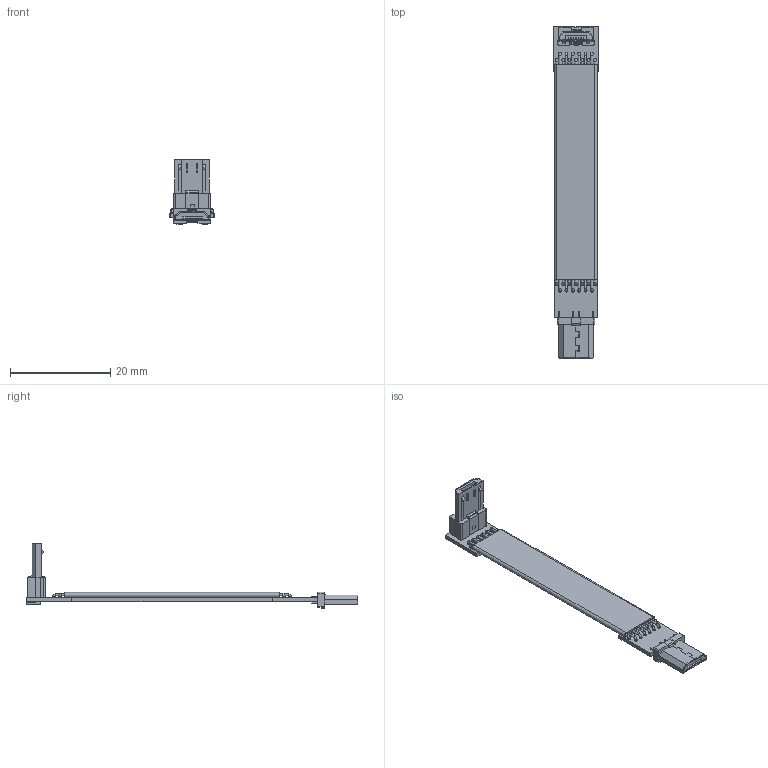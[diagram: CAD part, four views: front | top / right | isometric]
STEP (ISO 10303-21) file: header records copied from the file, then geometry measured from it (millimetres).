
FILE_DESCRIPTION(('Open CASCADE Model'),'2;1');
FILE_NAME('Open CASCADE Shape Model','2022-04-27T02:13:25',('Author'),( 'Open CASCADE'),'Open CASCADE STEP processor 6.8','Open CASCADE 6.8' ,'Unknown');
FILE_SCHEMA(('AUTOMOTIVE_DESIGN { 1 0 10303 214 1 1 1 1 }'));
Length unit declared in the file: millimetre
Products named in the file (35): PCB; Board; Open CASCADE STEP translator 6.8 3.1.1; Designator22; USB_micro; Designator22_1; micro_usb1; Free-Models; cable13-US2A
Assembly tree (34 placements, depth 3):
  PCB
    Board
      Open CASCADE STEP translator 6.8 3.1.1
    Designator22
      USB_micro
    Designator22_1
      micro_usb1
    Free-Models
      cable13-US2A
      cable13-US2A
      cable13-US2A
      cable13-US2A
      cable13-US2A
      cable13-US2A
      cable13-US2A
      cable13-US2A
      cable13-US2A
      cable13-US2A
      cable13-US2A
      cable13-US2A
      cable13-US2A
      cable13-US2A
      cable13-US2A
      cable13-US2A
      cable13-US2A
      cable13-US2A
      cable13-US2A
      cable13-US2A
      cable13-US2A
      cable13-US2A
      cable13-US2A
      cable13-US2A
      cable13-US2A
      cable13-US2A
      cable13-US2A
Bounding box: 8.96 x 66.3 x 12.88 mm (x, y, z)
Volume: 670.6 mm3; surface area: 2870.9 mm2
Topology: 30 solids, 30 shells, 574 faces, 1349 edges, 865 vertices
Faces by surface type: plane 388, cylinder 160, torus 26
Full cylindrical faces by diameter (mm): 0.36 x5, 0.4 x65, 0.55 x13, 0.6 x13
Entity records: 21780 total; most frequent: CARTESIAN_POINT 3044, DIRECTION 2782, ORIENTED_EDGE 2698, EDGE_CURVE 1349, LINE 952, VECTOR 952, AXIS2_PLACEMENT_3D 915, VERTEX_POINT 865
